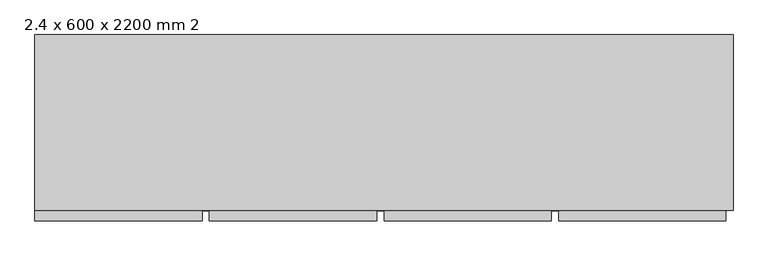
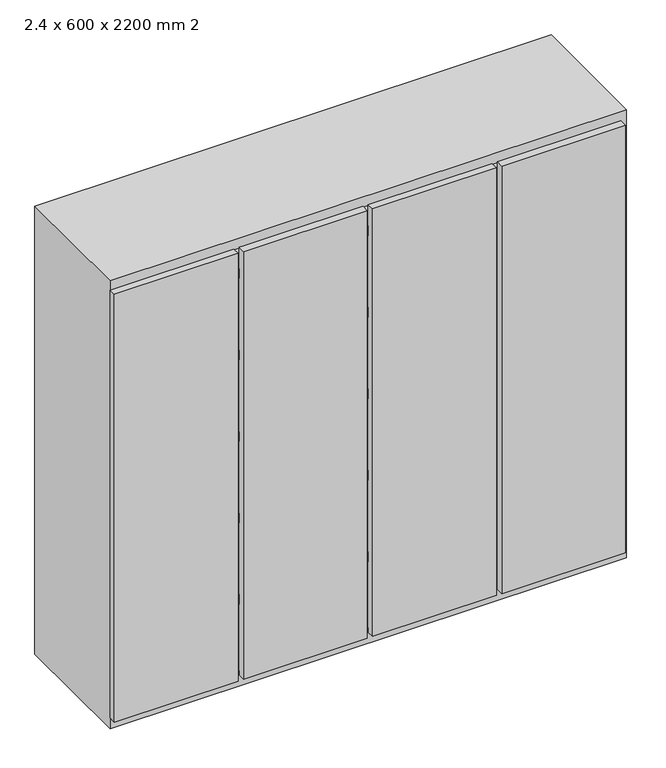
"""IFC4 building model written with IfcOpenShell, lengths in millimetres: furniture geometry, Shelved_closet_Armario_o_estanteria_Simple_y_paramtrico_14422 : 2.4 x 600 x 2200 mm 2."""

from ifc_helpers import new_model, si_unit, frame, origin, place, context, project, spatial, polyline, outline, extrude, faceted_brep, source, transform, mapped, element, save


def furniture_2_4_x_600_x_2200_mm_2_681608c5(model_context):
    return source(origin(), model_context, "Body", "SolidModel", [
        extrude(outline(polyline([(1000.8, -654.8), (-1299.2, -654.8), (-1299.2, -54.8), (1000.8, -54.8), (1000.8, -654.8)])), frame((0.0, 0.0, 2000.0), z_axis=(0.0, 0.0, 1.0), x_axis=(1.0, 0.0, 0.0)), (0.0, 0.0, 1.0), 50.0),
        extrude(outline(polyline([(1000.8, -654.8), (-1299.2, -654.8), (-1299.2, -54.8), (1000.8, -54.8), (1000.8, -654.8)])), frame((0.0, 0.0, 1600.0), z_axis=(0.0, 0.0, 1.0), x_axis=(1.0, 0.0, 0.0)), (0.0, 0.0, 1.0), 50.0),
        extrude(outline(polyline([(1000.8, -654.8), (-1299.2, -654.8), (-1299.2, -54.8), (1000.8, -54.8), (1000.8, -654.8)])), frame((0.0, 0.0, 1200.0), z_axis=(0.0, 0.0, 1.0), x_axis=(1.0, 0.0, 0.0)), (0.0, 0.0, 1.0), 50.0),
        extrude(outline(polyline([(1000.8, -654.8), (-1299.2, -654.8), (-1299.2, -54.8), (1000.8, -54.8), (1000.8, -654.8)])), frame((0.0, 0.0, 800.0), z_axis=(0.0, 0.0, 1.0), x_axis=(1.0, 0.0, 0.0)), (0.0, 0.0, 1.0), 50.0),
        extrude(outline(polyline([(1000.8, -654.8), (-1299.2, -654.8), (-1299.2, -54.8), (1000.8, -54.8), (1000.8, -654.8)])), frame((0.0, 0.0, 400.0), z_axis=(0.0, 0.0, 1.0), x_axis=(1.0, 0.0, 0.0)), (0.0, 0.0, 1.0), 50.0),
        extrude(outline(polyline([(450.0, -654.8), (1025.0, -654.8), (1025.0, -689.8), (450.0, -689.8), (450.0, -654.8)])), frame((0.0, 0.0, 54.2), z_axis=(0.0, 0.0, 1.0), x_axis=(1.0, 0.0, 0.0)), (0.0, 0.0, 1.0), 2100.0),
        extrude(outline(polyline([(-150.0, -654.8), (425.0, -654.8), (425.0, -689.8), (-150.0, -689.8), (-150.0, -654.8)])), frame((0.0, 0.0, 54.2), z_axis=(0.0, 0.0, 1.0), x_axis=(1.0, 0.0, 0.0)), (0.0, 0.0, 1.0), 2100.0),
        extrude(outline(polyline([(-750.0, -654.8), (-175.0, -654.8), (-175.0, -689.8), (-750.0, -689.8), (-750.0, -654.8)])), frame((0.0, 0.0, 54.2), z_axis=(0.0, 0.0, 1.0), x_axis=(1.0, 0.0, 0.0)), (0.0, 0.0, 1.0), 2100.0),
        extrude(outline(polyline([(-1350.0, -654.8), (-775.0, -654.8), (-775.0, -689.8), (-1350.0, -689.8), (-1350.0, -654.8)])), frame((0.0, 0.0, 54.2), z_axis=(0.0, 0.0, 1.0), x_axis=(1.0, 0.0, 0.0)), (0.0, 0.0, 1.0), 2100.0),
        faceted_brep([(1050.0, -654.8, 0.0), (1050.0, -654.8, 2200.0), (-1350.0, -654.8, 2200.0), (-1350.0, -654.8, 0.0), (999.2, -654.8, 2149.2), (999.2, -654.8, 76.2), (-1299.2, -654.8, 76.2), (-1299.2, -654.8, 2149.2), (1050.0, -49.8, 0.0), (1050.0, -49.8, 2200.0), (-1350.0, -49.8, 2200.0), (-1350.0, -49.8, 0.0), (999.2, -84.8, 2149.2), (999.2, -84.8, 76.2), (-1299.2, -84.8, 76.2), (-1299.2, -84.8, 2149.2)], [[[0, 1, 2, 3], [4, 5, 6, 7]], [[1, 0, 8, 9]], [[2, 1, 9, 10]], [[3, 2, 10, 11]], [[8, 0, 3, 11]], [[5, 4, 12, 13]], [[7, 6, 14, 15]], [[4, 7, 15, 12]], [[6, 5, 13, 14]], [[13, 12, 15, 14]], [[10, 9, 8, 11]]]),
    ])


if __name__ == "__main__":
    model = new_model("IFC4")
    model_context = context("Model", 3, world=origin())
    ifc_project = project(units=[si_unit("LENGTHUNIT", "METRE", prefix="MILLI")], contexts=[model_context])
    site = spatial("IfcSite", under=ifc_project)
    building = spatial("IfcBuilding", under=site)
    placement = place(None, origin())
    furniture_2_4_x_600_x_2200_mm_2_shape = furniture_2_4_x_600_x_2200_mm_2_681608c5(model_context)
    element("IfcFurniture", 1, ObjectType="Shelved_closet_Armario_o_estanteria_Simple_y_paramtrico_14422 : 2.4 x 600 x 2200 mm 2", at=placement, inside=building, context=model_context, shape_type="MappedRepresentation", body=[
        mapped(furniture_2_4_x_600_x_2200_mm_2_shape, transform((0.0, 0.0, 0.0), x_axis=(1.0, 0.0, 0.0), y_axis=(0.0, 1.0, 0.0), z_axis=(0.0, 0.0, 1.0))),
    ])
    save(model, "model.ifc")
